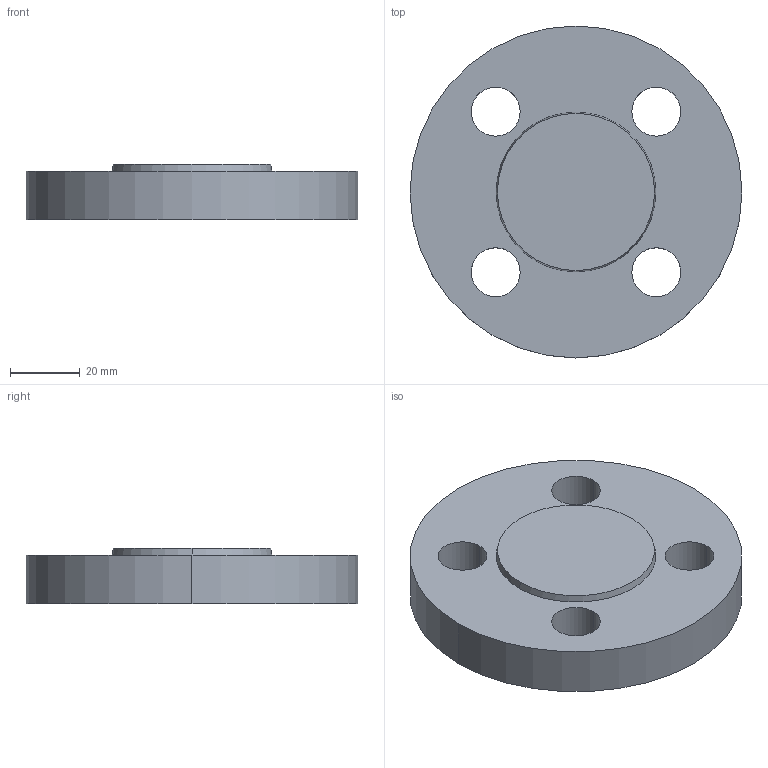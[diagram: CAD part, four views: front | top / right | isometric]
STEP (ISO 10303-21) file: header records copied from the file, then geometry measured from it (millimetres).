
FILE_DESCRIPTION (( 'STEP AP214' ), '1' );
FILE_NAME ('PN40 DN15 Type 05 - Type B Face.STEP', '2018-12-29T15:07:45', ( '' ), ( '' ), 'SwSTEP 2.0', 'SolidWorks 2019', '' );
FILE_SCHEMA (( 'AUTOMOTIVE_DESIGN' ));
Length unit declared in the file: millimetre
Products named in the file (1): PN40 DN15 Type 05 - Type B Face
Bounding box: 95 x 95 x 16 mm (x, y, z)
Volume: 93845.5 mm3; surface area: 19825.4 mm2
Topology: 1 solids, 1 shells, 15 faces, 36 edges, 24 vertices
Faces by surface type: cylinder 10, plane 3, cone 2
Entity records: 504 total; most frequent: DIRECTION 92, CARTESIAN_POINT 76, ORIENTED_EDGE 72, AXIS2_PLACEMENT_3D 40, EDGE_CURVE 36, CIRCLE 24, EDGE_LOOP 24, VERTEX_POINT 24
